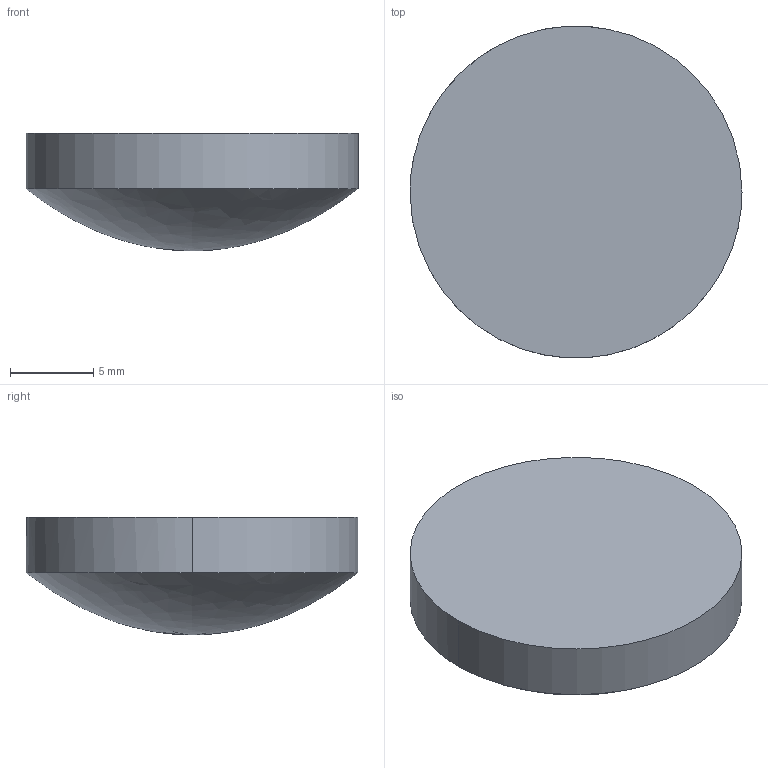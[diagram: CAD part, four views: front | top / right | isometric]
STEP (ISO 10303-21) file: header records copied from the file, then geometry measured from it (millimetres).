
FILE_DESCRIPTION ((), '1');
FILE_NAME ('\\fileserver\Daten\Applikationen\Optikdesign\SPA-Design\aktuelle SPA-Designs\Linsenkataloge - 2016-Juni\Zemax\AHL\AHL20-18.STP', '2016-05-24T14:18:05', ('Unknown'), ('Unknown'), 'HarmonyWare STEP v2.0.1', 'HarmonyWare Translators', '');
FILE_SCHEMA (('CONFIG_CONTROL_DESIGN'));
Length unit declared in the file: millimetre
Products named in the file (1): NONE
Bounding box: 20 x 19.98 x 7.1 mm (x, y, z)
Volume: 1653.6 mm3; surface area: 881.6 mm2
Topology: 1 solids, 1 shells, 4 faces, 9 edges, 6 vertices
Faces by surface type: cylinder 2, bspline 1, plane 1
Entity records: 285 total; most frequent: CARTESIAN_POINT 134, ORIENTED_EDGE 16, EDGE_CURVE 8, PERSON 8, ORGANIZATION 8, PERSON_AND_ORGANIZATION 8, VERTEX_POINT 6, DIRECTION 6
